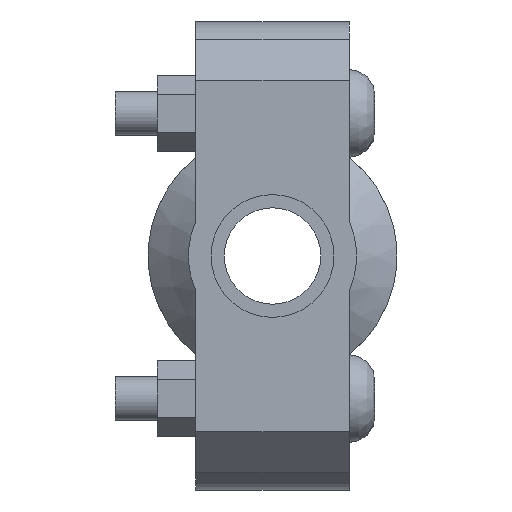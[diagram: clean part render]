
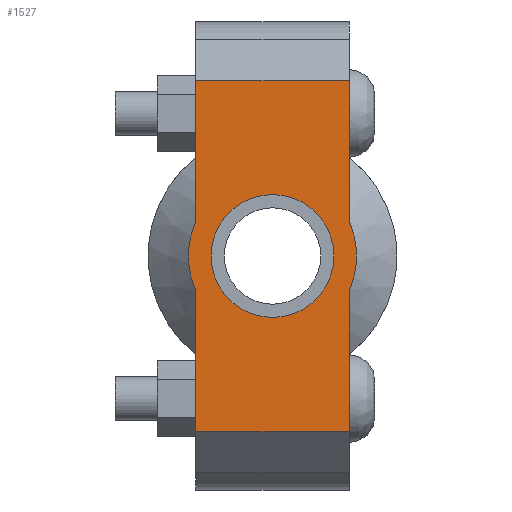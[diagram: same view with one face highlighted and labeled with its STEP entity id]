
A CAD part, left-side view. The second image highlights one B-rep face of the part: STEP entity #1527.
In plain terms, the highlighted planar face has unit normal (-1, 0, 0) as drawn and (0, 0, 1) by its records, which use the part's own axes.
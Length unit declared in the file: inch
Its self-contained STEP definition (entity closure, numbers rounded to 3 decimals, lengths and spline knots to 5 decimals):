
#138=LINE('',#2623,#233);
#153=LINE('',#2682,#248);
#161=LINE('',#2712,#256);
#163=LINE('',#2715,#258);
#164=LINE('',#2720,#259);
#165=LINE('',#2721,#260);
#233=VECTOR('',#2121,0.3937);
#248=VECTOR('',#2156,0.3937);
#256=VECTOR('',#2176,0.3937);
#258=VECTOR('',#2180,0.3937);
#259=VECTOR('',#2185,0.3937);
#260=VECTOR('',#2186,0.3937);
#320=FACE_BOUND('',#479,.T.);
#380=FACE_OUTER_BOUND('',#478,.T.);
#478=EDGE_LOOP('',(#1222,#1223,#1224,#1225,#1226,#1227,#1228,#1229));
#479=EDGE_LOOP('',(#1230));
#584=CIRCLE('',#1790,0.719);
#585=CIRCLE('',#1791,0.719);
#586=CIRCLE('',#1792,0.525);
#693=VERTEX_POINT('',#2620);
#694=VERTEX_POINT('',#2622);
#715=VERTEX_POINT('',#2677);
#716=VERTEX_POINT('',#2681);
#725=VERTEX_POINT('',#2707);
#726=VERTEX_POINT('',#2711);
#727=VERTEX_POINT('',#2717);
#728=VERTEX_POINT('',#2719);
#729=VERTEX_POINT('',#2723);
#863=EDGE_CURVE('',#694,#693,#138,.T.);
#888=EDGE_CURVE('',#716,#715,#153,.T.);
#901=EDGE_CURVE('',#726,#725,#161,.T.);
#903=EDGE_CURVE('',#726,#693,#163,.T.);
#904=EDGE_CURVE('',#725,#727,#584,.T.);
#905=EDGE_CURVE('',#727,#728,#164,.T.);
#906=EDGE_CURVE('',#716,#728,#165,.T.);
#907=EDGE_CURVE('',#715,#694,#585,.T.);
#908=EDGE_CURVE('',#729,#729,#586,.T.);
#1222=ORIENTED_EDGE('',*,*,#903,.F.);
#1223=ORIENTED_EDGE('',*,*,#901,.T.);
#1224=ORIENTED_EDGE('',*,*,#904,.T.);
#1225=ORIENTED_EDGE('',*,*,#905,.T.);
#1226=ORIENTED_EDGE('',*,*,#906,.F.);
#1227=ORIENTED_EDGE('',*,*,#888,.T.);
#1228=ORIENTED_EDGE('',*,*,#907,.T.);
#1229=ORIENTED_EDGE('',*,*,#863,.T.);
#1230=ORIENTED_EDGE('',*,*,#908,.T.);
#1379=PLANE('',#1789);
#1527=ADVANCED_FACE('',(#380,#320),#1379,.T.);
#1789=AXIS2_PLACEMENT_3D('',#2716,#2181,#2182);
#1790=AXIS2_PLACEMENT_3D('',#2718,#2183,#2184);
#1791=AXIS2_PLACEMENT_3D('',#2722,#2187,#2188);
#1792=AXIS2_PLACEMENT_3D('',#2724,#2189,#2190);
#2121=DIRECTION('',(1.,0.,0.));
#2156=DIRECTION('',(1.,0.,0.));
#2176=DIRECTION('',(-1.,0.,0.));
#2180=DIRECTION('',(0.,-1.,0.));
#2181=DIRECTION('center_axis',(0.,0.,1.));
#2182=DIRECTION('ref_axis',(-1.,0.,0.));
#2183=DIRECTION('center_axis',(0.,0.,1.));
#2184=DIRECTION('ref_axis',(1.,0.,0.));
#2185=DIRECTION('',(-1.,0.,0.));
#2186=DIRECTION('',(0.,1.,0.));
#2187=DIRECTION('center_axis',(0.,0.,1.));
#2188=DIRECTION('ref_axis',(1.,0.,0.));
#2189=DIRECTION('center_axis',(0.,0.,-1.));
#2190=DIRECTION('ref_axis',(1.,0.,0.));
#2620=CARTESIAN_POINT('',(1.5,-0.656,0.875));
#2622=CARTESIAN_POINT('',(0.29432,-0.656,0.875));
#2623=CARTESIAN_POINT('',(-2.,-0.656,0.875));
#2677=CARTESIAN_POINT('',(-0.29432,-0.656,0.875));
#2681=CARTESIAN_POINT('',(-1.5,-0.656,0.875));
#2682=CARTESIAN_POINT('',(-2.,-0.656,0.875));
#2707=CARTESIAN_POINT('',(0.29432,0.656,0.875));
#2711=CARTESIAN_POINT('',(1.5,0.656,0.875));
#2712=CARTESIAN_POINT('',(2.,0.656,0.875));
#2715=CARTESIAN_POINT('',(1.5,-0.328,0.875));
#2716=CARTESIAN_POINT('Origin',(0.,0.,
0.875));
#2717=CARTESIAN_POINT('',(-0.29432,0.656,0.875));
#2718=CARTESIAN_POINT('Origin',(0.,0.,0.875));
#2719=CARTESIAN_POINT('',(-1.5,0.656,0.875));
#2720=CARTESIAN_POINT('',(2.,0.656,0.875));
#2721=CARTESIAN_POINT('',(-1.5,0.328,0.875));
#2722=CARTESIAN_POINT('Origin',(0.,0.,0.875));
#2723=CARTESIAN_POINT('',(-0.525,0.,0.875));
#2724=CARTESIAN_POINT('Origin',(0.,0.,0.875));
